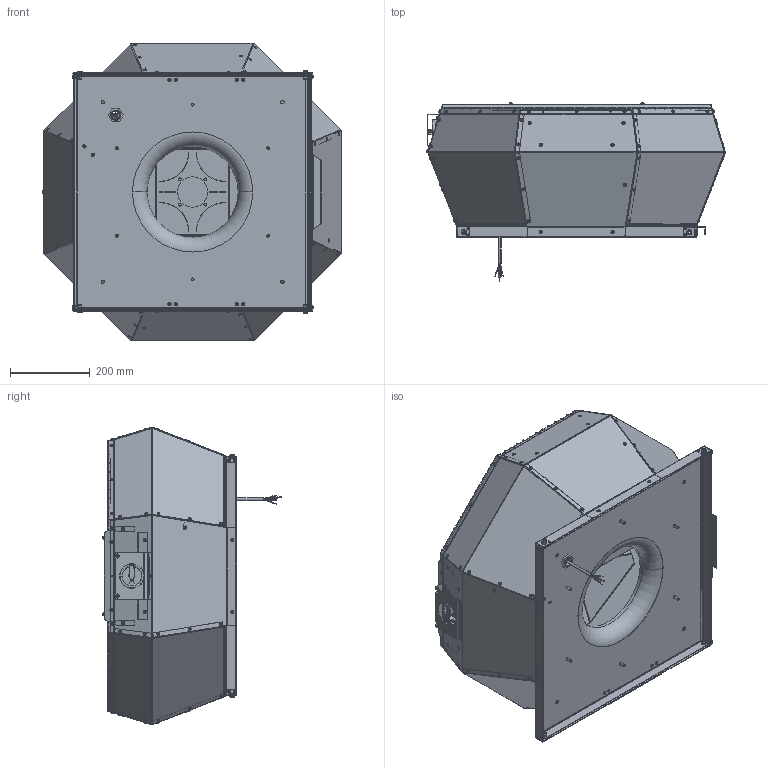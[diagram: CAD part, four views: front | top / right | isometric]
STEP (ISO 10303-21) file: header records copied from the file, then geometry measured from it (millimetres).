
FILE_DESCRIPTION (( 'STEP AP203' ), '1' );
FILE_NAME ('139203-00_DVA355ECP31.STEP', '2017-03-28T07:36:56', ( '' ), ( '' ), 'SwSTEP 2.0', 'SolidWorks 2012', '' );
FILE_SCHEMA (( 'CONFIG_CONTROL_DESIGN' ));
Products named in the file (1): 139203-00_DVA355ECP31
Bounding box: 748.09 x 446.56 x 745.14 mm (x, y, z)
Surface area: 3530658.1 mm2 (no closed solid volume)
Topology: 0 solids, 321 shells, 3557 faces, 12244 edges, 8496 vertices
Faces by surface type: plane 2211, cylinder 808, torus 443, bspline 62, cone 32, sphere 1
Entity records: 136461 total; most frequent: CARTESIAN_POINT 29346, DIRECTION 21969, ORIENTED_EDGE 19940, EDGE_CURVE 12243, VERTEX_POINT 8496, VECTOR 8143, LINE 8143, AXIS2_PLACEMENT_3D 6913
